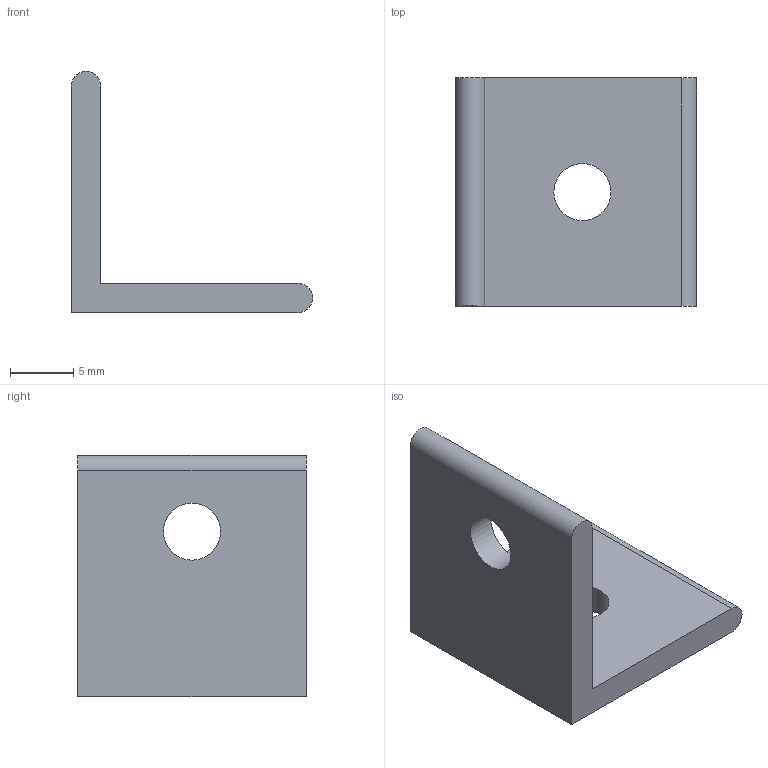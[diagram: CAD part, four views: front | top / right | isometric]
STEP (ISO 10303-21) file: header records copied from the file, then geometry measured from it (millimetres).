
FILE_DESCRIPTION(/* description */ ('Unknown'),/* implementation_level */ '2;1');
FILE_NAME(/* name */ 'AL1820',/* time_stamp */ '2026-08-31T13:39:22+08:00',/* author */ ('Unknown'),/* organization */ ('Unknown'),/* preprocessor_version */ 'ST-DEVELOPER v16.7',/* originating_system */ 'DEX',/* authorisation */ $);
FILE_SCHEMA (('AUTOMOTIVE_DESIGN {1 0 10303 214 3 1 1}'));
Length unit declared in the file: millimetre
Products named in the file (1): AL1820
Bounding box: 19 x 18 x 19 mm (x, y, z)
Volume: 1384.4 mm3; surface area: 1495.8 mm2
Topology: 1 solids, 1 shells, 10 faces, 25 edges, 17 vertices
Faces by surface type: plane 6, cylinder 4
Full cylindrical faces by diameter (mm): 4.5 x2
Entity records: 388 total; most frequent: DIRECTION 52, CARTESIAN_POINT 49, ORIENTED_EDGE 44, EDGE_CURVE 22, AXIS2_PLACEMENT_3D 19, VERTEX_POINT 16, EDGE_LOOP 16, FACE_BOUND 16
